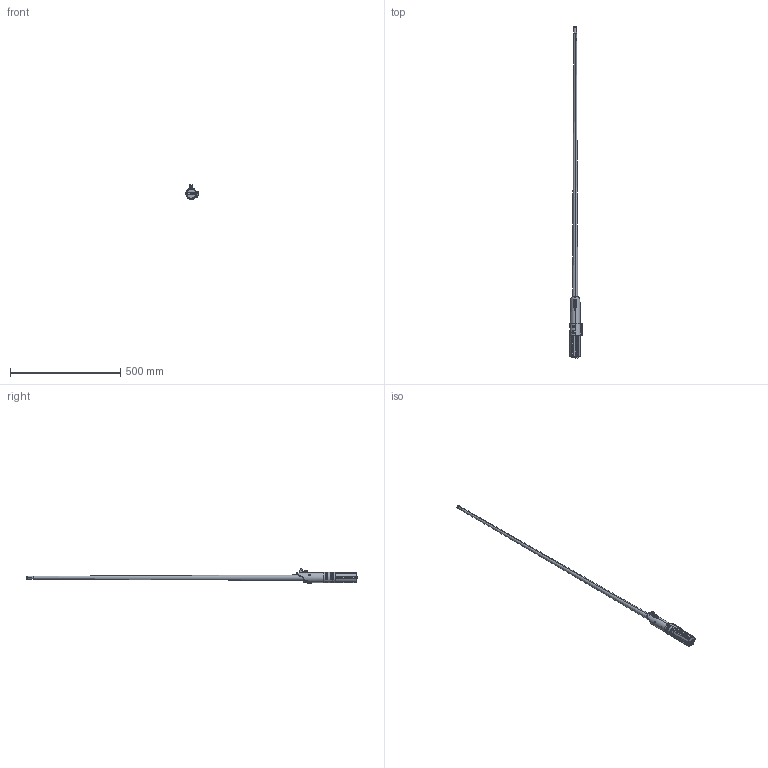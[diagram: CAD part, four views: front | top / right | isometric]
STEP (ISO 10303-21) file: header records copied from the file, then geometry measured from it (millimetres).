
FILE_DESCRIPTION (( 'STEP AP214' ), '1' );
FILE_NAME ('Luke Skywalker (Lightsaber) (Cue Stick).STEP', '2017-01-19T17:06:42', ( '' ), ( '' ), 'SwSTEP 2.0', 'SolidWorks 2016', '' );
FILE_SCHEMA (( 'AUTOMOTIVE_DESIGN' ));
Length unit declared in the file: inch
Products named in the file (1): Luke Skywalker (Lightsaber) (Cue Stick)
Bounding box: 60.33 x 1502.52 x 64.22 mm (x, y, z)
Volume: 782913.4 mm3; surface area: 245457 mm2
Topology: 7 solids, 19 shells, 1047 faces, 2706 edges, 1743 vertices
Faces by surface type: plane 653, cylinder 269, torus 93, cone 23, sphere 6, bspline 3
Entity records: 38143 total; most frequent: CARTESIAN_POINT 8038, DIRECTION 5411, ORIENTED_EDGE 5404, EDGE_CURVE 2702, AXIS2_PLACEMENT_3D 1876, VERTEX_POINT 1741, LINE 1659, VECTOR 1659
